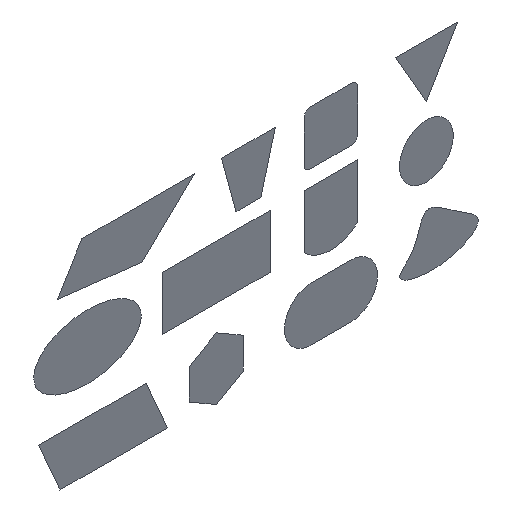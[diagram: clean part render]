
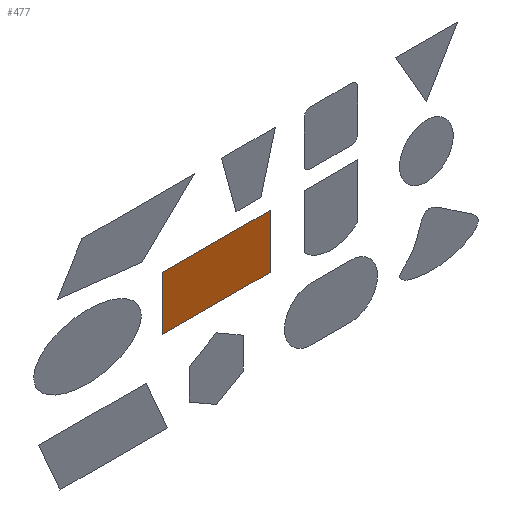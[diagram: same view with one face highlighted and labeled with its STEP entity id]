
A CAD part, isometric view. The second image highlights one B-rep face of the part: STEP entity #477.
In plain terms, the highlighted planar face has unit normal (0, 1, 0).
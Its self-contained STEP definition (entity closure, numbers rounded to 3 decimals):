
#44 = ORIENTED_EDGE ( 'NONE', *, *, #542, .T. ) ;
#47 = EDGE_LOOP ( 'NONE', ( #44, #341, #323, #620 ) ) ;
#75 = CARTESIAN_POINT ( 'NONE',  ( -79.283, 0., -39.641 ) ) ;
#76 = DIRECTION ( 'NONE',  ( 0., 0., 1. ) ) ;
#83 = LINE ( 'NONE', #287, #122 ) ;
#85 = AXIS2_PLACEMENT_3D ( 'NONE', #471, #561, #76 ) ;
#91 = VECTOR ( 'NONE', #364, 1000. ) ;
#118 = VERTEX_POINT ( 'NONE', #75 ) ;
#122 = VECTOR ( 'NONE', #476, 1000. ) ;
#129 = CARTESIAN_POINT ( 'NONE',  ( -79.283, 0., -39.641 ) ) ;
#161 = LINE ( 'NONE', #310, #91 ) ;
#172 = PLANE ( 'NONE',  #85 ) ;
#181 = VERTEX_POINT ( 'NONE', #244 ) ;
#244 = CARTESIAN_POINT ( 'NONE',  ( 79.283, 0., -39.641 ) ) ;
#246 = CARTESIAN_POINT ( 'NONE',  ( -79.283, 0., 39.641 ) ) ;
#258 = EDGE_CURVE ( 'NONE', #181, #118, #352, .T. ) ;
#287 = CARTESIAN_POINT ( 'NONE',  ( 79.283, 0., -39.641 ) ) ;
#290 = EDGE_CURVE ( 'NONE', #576, #586, #161, .T. ) ;
#294 = VECTOR ( 'NONE', #357, 1000. ) ;
#307 = VECTOR ( 'NONE', #526, 1000. ) ;
#310 = CARTESIAN_POINT ( 'NONE',  ( -79.283, 0., 39.641 ) ) ;
#323 = ORIENTED_EDGE ( 'NONE', *, *, #513, .T. ) ;
#335 = LINE ( 'NONE', #129, #307 ) ;
#341 = ORIENTED_EDGE ( 'NONE', *, *, #258, .T. ) ;
#352 = LINE ( 'NONE', #601, #294 ) ;
#357 = DIRECTION ( 'NONE',  ( -1., 0., 0. ) ) ;
#364 = DIRECTION ( 'NONE',  ( 1., 0., 0. ) ) ;
#429 = CARTESIAN_POINT ( 'NONE',  ( 79.283, 0., 39.641 ) ) ;
#471 = CARTESIAN_POINT ( 'NONE',  ( 0., 0., 0. ) ) ;
#476 = DIRECTION ( 'NONE',  ( 0., 0., -1. ) ) ;
#477 = ADVANCED_FACE ( 'NONE', ( #519 ), #172, .T. ) ;
#513 = EDGE_CURVE ( 'NONE', #118, #576, #335, .T. ) ;
#519 = FACE_OUTER_BOUND ( 'NONE', #47, .T. ) ;
#526 = DIRECTION ( 'NONE',  ( 0., 0., 1. ) ) ;
#542 = EDGE_CURVE ( 'NONE', #586, #181, #83, .T. ) ;
#561 = DIRECTION ( 'NONE',  ( 0., 1., 0. ) ) ;
#576 = VERTEX_POINT ( 'NONE', #246 ) ;
#586 = VERTEX_POINT ( 'NONE', #429 ) ;
#601 = CARTESIAN_POINT ( 'NONE',  ( -79.283, 0., -39.641 ) ) ;
#620 = ORIENTED_EDGE ( 'NONE', *, *, #290, .T. ) ;
